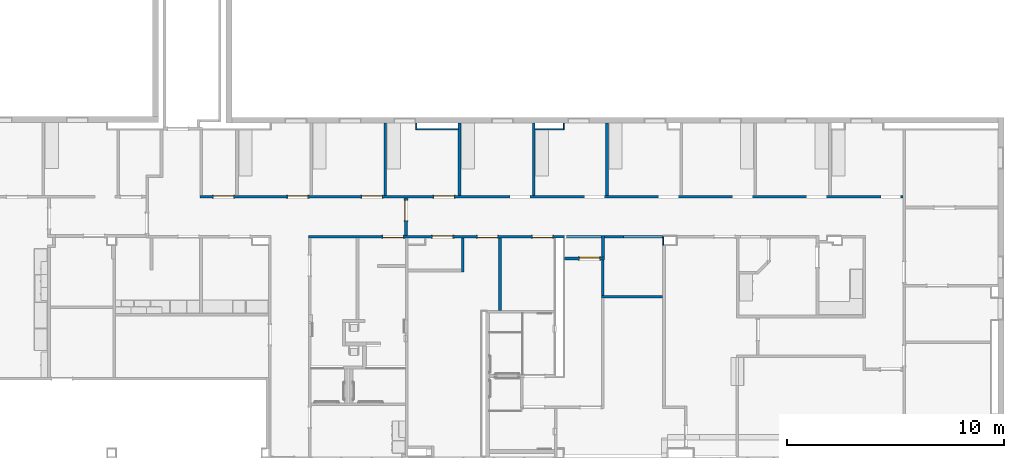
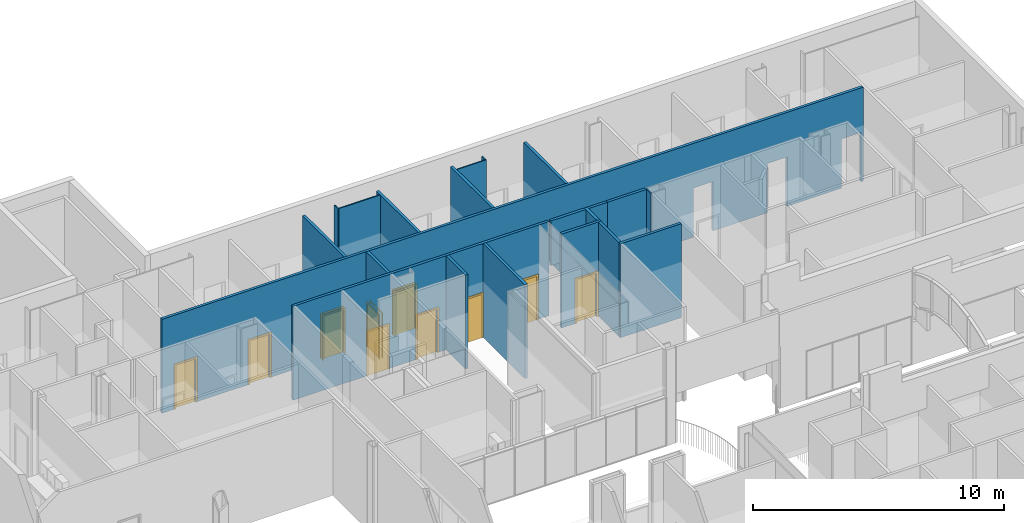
# One storey, part 22 of 47: 21 walls, 10 doors, 16 openings.
"""IFC2X3 building model written with IfcOpenShell, lengths in metres."""

import ifcopenshell
import ifcopenshell.guid

model = None  # the IFC model being written
_history = None  # IfcOwnerHistory: only IFC2X3 demands one
_inside = {}  # id of a spatial element -> (the spatial element, [elements in it])
_under = {}  # id of a project, library or spatial element -> (it, [spatial elements below it])
_declared = {}  # id of a project -> (the project, [libraries it declares])
_typed = {}  # id of a type object -> (the type object, [elements of that type])
_made_of = {}  # id of a material, layer set ... -> (it, [elements and type objects made of it])


def new_model(schema):
    """Start an empty IFC model of exactly this schema.

    Asked for "IFC4X3", IfcOpenShell would pick the latest addendum, in which some entities
    have other attributes; the version numbers below select the first issue.
    IFC2X3 requires an IfcOwnerHistory on every rooted entity: one is made here for all.
    """
    global model, _history
    if schema == "IFC4X3":
        model = ifcopenshell.file(schema_version=(4, 3, 0, 0))
    else:
        model = ifcopenshell.file(schema=schema)
    _inside.clear()
    _under.clear()
    _declared.clear()
    _typed.clear()
    _made_of.clear()
    _history = None
    if model.schema == "IFC2X3":
        org = make("IfcOrganization", Name="unknown")
        user = make(
            "IfcPersonAndOrganization",
            ThePerson=make("IfcPerson", FamilyName="unknown"),
            TheOrganization=org,
        )
        app = make(
            "IfcApplication",
            ApplicationDeveloper=org,
            Version="unknown",
            ApplicationFullName="unknown",
            ApplicationIdentifier="unknown",
        )
        _history = make(
            "IfcOwnerHistory",
            OwningUser=user,
            OwningApplication=app,
            ChangeAction="ADDED",
            CreationDate=0,
        )
    return model


def make(cls, **values):
    """One entity of the class cls with the attributes given. An attribute that is None is left unset."""
    return model.create_entity(
        cls, **{name: value for name, value in values.items() if value is not None}
    )


def entity(cls, *values):
    """Any entity or typed value of the class cls, its attributes in the order of the schema. None: left unset."""
    e = model.create_entity(cls)
    for i, value in enumerate(values):
        if value is not None:
            e[i] = value
    return e


def rooted(cls, **values):
    """An entity with a GlobalId (a new one), such as an element, a storey or a relation."""
    return make(cls, GlobalId=ifcopenshell.guid.new(), OwnerHistory=_history, **values)


def si_unit(unit_type, name, prefix=None):
    """IfcSIUnit, for example si_unit("LENGTHUNIT", "METRE", prefix="MILLI")."""
    return make("IfcSIUnit", UnitType=unit_type, Prefix=prefix, Name=name)


def converted_unit(unit_type, name, factor, base, dimensions=None, offset=None):
    """IfcConversionBasedUnit, such as the inch: factor (a typed value) times the base unit."""
    return make(
        "IfcConversionBasedUnit"
        if offset is None
        else "IfcConversionBasedUnitWithOffset",
        ConversionOffset=offset,
        Dimensions=None
        if dimensions is None
        else entity("IfcDimensionalExponents", *dimensions),
        UnitType=unit_type,
        Name=name,
        ConversionFactor=make(
            "IfcMeasureWithUnit", ValueComponent=factor, UnitComponent=base
        ),
    )


def assignment(units):
    """IfcUnitAssignment: the units of a project."""
    return None if units is None else make("IfcUnitAssignment", Units=units)


def point(xyz):
    """IfcCartesianPoint."""
    return None if xyz is None else make("IfcCartesianPoint", Coordinates=xyz)


def direction(xyz):
    """IfcDirection."""
    return None if xyz is None else make("IfcDirection", DirectionRatios=xyz)


def frame(location, z_axis=None, x_axis=None):
    """IfcAxis2Placement3D, a coordinate frame: its origin and axes. An axis left out is left unset."""
    return make(
        "IfcAxis2Placement3D",
        Location=point(location),
        Axis=direction(z_axis),
        RefDirection=direction(x_axis),
    )


def frame_2d(location, x_axis=None):
    """IfcAxis2Placement2D, a coordinate frame in the plane: its origin and x axis."""
    return make(
        "IfcAxis2Placement2D", Location=point(location), RefDirection=direction(x_axis)
    )


def origin():
    """The frame at (0, 0, 0) with its axes left unset."""
    return frame((0.0, 0.0, 0.0))


def origin_2d_with_axis():
    """The frame at (0, 0) in the plane with the x axis (1, 0) written out."""
    return frame_2d((0.0, 0.0), x_axis=(1.0, 0.0))


def place(relative_to, where):
    """IfcLocalPlacement: puts the frame where relative to a parent placement (None: the world)."""
    return make(
        "IfcLocalPlacement", PlacementRelTo=relative_to, RelativePlacement=where
    )


def context(
    kind, dimensions, precision=None, world=None, true_north=None, identifier=None
):
    """IfcGeometricRepresentationContext, for example the 3D "Model" context."""
    return make(
        "IfcGeometricRepresentationContext",
        ContextIdentifier=identifier,
        ContextType=kind,
        CoordinateSpaceDimension=dimensions,
        Precision=precision,
        WorldCoordinateSystem=world,
        TrueNorth=true_north,
    )


def project(units=None, contexts=None):
    """IfcProject with its units and contexts."""
    return rooted(
        "IfcProject",
        Name="project",
        RepresentationContexts=contexts,
        UnitsInContext=assignment(units),
    )


def spatial(cls, under=None, at=None, **own):
    """A site, building, storey or space (cls), placed at a placement, below another one or the project."""
    s = rooted(cls, ObjectPlacement=at, **own)
    if under is not None:
        _under.setdefault(under.id(), (under, []))[1].append(s)
    return s


def polyline(points):
    """IfcPolyline through the points."""
    return make("IfcPolyline", Points=[point(p) for p in points])


def profile(cls, at=None, kind="AREA", **sizes):
    """A parametric profile (cls). Its sizes go by their IFC names, for example OverallWidth=200.0."""
    return make(cls, ProfileType=kind, Position=at, **sizes)


def rectangle(**sizes):
    """IfcRectangleProfileDef."""
    return profile("IfcRectangleProfileDef", **sizes)


def outline(outer, holes=None, kind="AREA"):
    """IfcArbitraryClosedProfileDef: a profile drawn as a closed curve; with holes, ...WithVoids."""
    if holes is None:
        return make("IfcArbitraryClosedProfileDef", ProfileType=kind, OuterCurve=outer)
    return make(
        "IfcArbitraryProfileDefWithVoids",
        ProfileType=kind,
        OuterCurve=outer,
        InnerCurves=holes,
    )


def extrude(swept, where, along, depth):
    """IfcExtrudedAreaSolid: the profile swept, set in the frame where, extruded along a direction by depth."""
    return make(
        "IfcExtrudedAreaSolid",
        SweptArea=swept,
        Position=where,
        ExtrudedDirection=direction(along),
        Depth=depth,
    )


def shape(context_of_items, identifier, shape_type, items):
    """IfcShapeRepresentation: the items that make up one representation, for example the "Body"."""
    return make(
        "IfcShapeRepresentation",
        ContextOfItems=context_of_items,
        RepresentationIdentifier=identifier,
        RepresentationType=shape_type,
        Items=items,
    )


def source(mapping_origin, context_of_items, identifier, shape_type, items):
    """IfcRepresentationMap: a shape defined once, which mapped items show again and again."""
    return make(
        "IfcRepresentationMap",
        MappingOrigin=mapping_origin,
        MappedRepresentation=shape(context_of_items, identifier, shape_type, items),
    )


def transform(
    local_origin,
    x_axis=None,
    y_axis=None,
    z_axis=None,
    scale=None,
    scale2=None,
    scale3=None,
    uniform=True,
):
    """IfcCartesianTransformationOperator3D, or its non-uniform kind. x_axis, y_axis, z_axis: its Axis1, 2, 3."""
    if uniform:
        return make(
            "IfcCartesianTransformationOperator3D",
            Axis1=direction(x_axis),
            Axis2=direction(y_axis),
            LocalOrigin=point(local_origin),
            Scale=scale,
            Axis3=direction(z_axis),
        )
    return make(
        "IfcCartesianTransformationOperator3DnonUniform",
        Axis1=direction(x_axis),
        Axis2=direction(y_axis),
        LocalOrigin=point(local_origin),
        Scale=scale,
        Axis3=direction(z_axis),
        Scale2=scale2,
        Scale3=scale3,
    )


def mapped(mapping_source, mapping_target):
    """IfcMappedItem: shows the shape of a source again, moved by a transform."""
    return make(
        "IfcMappedItem", MappingSource=mapping_source, MappingTarget=mapping_target
    )


def material(Name=None, Category=None):
    """IfcMaterial."""
    return make("IfcMaterial", Name=Name, Category=Category)


def layer(
    of_material, thickness, ventilated=None, Name=None, Category=None, Priority=None
):
    """IfcMaterialLayer: one layer of a wall or slab, of a material (None: an air gap)."""
    return make(
        "IfcMaterialLayer",
        Material=of_material,
        LayerThickness=thickness,
        IsVentilated=ventilated,
        Name=Name,
        Category=Category,
        Priority=Priority,
    )


def layer_set(layers, Name=None):
    """IfcMaterialLayerSet."""
    return make("IfcMaterialLayerSet", MaterialLayers=layers, LayerSetName=Name)


def layer_usage(for_layer_set, set_direction, sense, offset, extent=None):
    """IfcMaterialLayerSetUsage: how a layer set lies in its element."""
    return make(
        "IfcMaterialLayerSetUsage",
        ForLayerSet=for_layer_set,
        LayerSetDirection=set_direction,
        DirectionSense=sense,
        OffsetFromReferenceLine=offset,
        ReferenceExtent=extent,
    )


def made_of(thing, what):
    """Note that an element or type object is made of a material, layer set ...; save() writes the relation."""
    if what is not None:
        _made_of.setdefault(what.id(), (what, []))[1].append(thing)
    return thing


def type_object(cls, material=None, **own):
    """A type object (cls), such as IfcWallType, which elements share."""
    return made_of(rooted(cls, **own), material)


def type_shapes(of_type, sources):
    """Give a type object the sources (RepresentationMaps) that its elements show as mapped items."""
    of_type.RepresentationMaps = sources


def element(
    cls,
    number,
    at=None,
    inside=None,
    cuts=None,
    type_object=None,
    material=None,
    context=None,
    identifier="Body",
    shape_type=None,
    held_by="IfcProductDefinitionShape",
    body=None,
    shapes=None,
    **own,
):
    """One element of the class cls, such as IfcWall. Its Tag is "e" and its number.

    at: its placement. inside: the storey or other place that contains it. cuts: it is an
    opening in that element (IfcRelVoidsElement). A single representation is given by context,
    identifier, shape_type and body (its items); several are given by shapes. held_by: the class
    of the entity that holds the representations. save() writes the other relations.
    """
    e = rooted(cls, Tag="e%d" % number, ObjectPlacement=at, **own)
    if body is not None:
        shapes = [shape(context, identifier, shape_type, body)]
    if shapes is not None:
        e.Representation = make(held_by, Representations=shapes)
    if inside is not None:
        _inside.setdefault(inside.id(), (inside, []))[1].append(e)
    if cuts is not None:
        rooted(
            "IfcRelVoidsElement", RelatingBuildingElement=cuts, RelatedOpeningElement=e
        )
    if type_object is not None:
        _typed.setdefault(type_object.id(), (type_object, []))[1].append(e)
    return made_of(e, material)


def fill(opening, filler):
    """IfcRelFillsElement: the door or window that sits in an opening."""
    return rooted(
        "IfcRelFillsElement",
        RelatingOpeningElement=opening,
        RelatedBuildingElement=filler,
    )


def aggregate(whole, parts):
    """IfcRelAggregates: a whole, such as a stair, and the parts it consists of."""
    return rooted("IfcRelAggregates", RelatingObject=whole, RelatedObjects=parts)


def save(model, path):
    """Write the relations noted so far, then the file.

    IfcRelAggregates (storeys below a building ...), IfcRelContainedInSpatialStructure (elements
    in a storey), IfcRelDefinesByType, IfcRelAssociatesMaterial and IfcRelDeclares: one each for
    every whole, place, type object, material and project.
    """
    for whole, parts in _under.values():
        aggregate(whole, parts)
    for where, things in _inside.values():
        rooted(
            "IfcRelContainedInSpatialStructure",
            RelatedElements=things,
            RelatingStructure=where,
        )
    for kind, things in _typed.values():
        rooted("IfcRelDefinesByType", RelatedObjects=things, RelatingType=kind)
    for what, things in _made_of.values():
        rooted("IfcRelAssociatesMaterial", RelatedObjects=things, RelatingMaterial=what)
    for by, libraries in _declared.values():
        rooted("IfcRelDeclares", RelatingContext=by, RelatedDefinitions=libraries)
    model.write(path)


model = new_model("IFC2X3")

# Units and contexts
model_context = context("Model", 3, precision=1e-09, world=origin())
plan_context = context("Plan", 3, precision=1e-09, world=origin())
ifc_project = project(units=[si_unit("LENGTHUNIT", "METRE"), si_unit("AREAUNIT", "SQUARE_METRE"), si_unit("VOLUMEUNIT", "CUBIC_METRE"), converted_unit("PLANEANGLEUNIT", "DEGREE", entity("IfcRatioMeasure", 0.01745329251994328), si_unit("PLANEANGLEUNIT", "RADIAN"), dimensions=[0, 0, 0, 0, 0, 0, 0]), si_unit("TIMEUNIT", "SECOND")], contexts=[model_context, plan_context])

# Site, building, storey
site_placement = place(None, origin())
site = spatial("IfcSite", under=ifc_project, at=site_placement, Name="Default", CompositionType="ELEMENT")
building_placement = place(site_placement, origin())
building = spatial("IfcBuilding", under=site, at=building_placement, CompositionType="ELEMENT")
storey_placement = place(building_placement, frame((0.0, 0.0, 4.570000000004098)))
storey = spatial("IfcBuildingStorey", under=building, at=storey_placement, Name="Second Floor", CompositionType="ELEMENT", Elevation=4.570000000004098)

# Walls
ifc_material_1 = material(Name="Plasterboard")
ifc_layer_1 = layer(ifc_material_1, 0.016)
ifc_material_2 = material(Name="Metal - Stud Layer")
ifc_layer_2 = layer(ifc_material_2, 0.092)
ifc_layer_3 = layer(ifc_material_1, 0.016)
ifc_layer_set_1 = layer_set([ifc_layer_1, ifc_layer_2, ifc_layer_3], Name="Basic Wall:Interior - Partition (92mm Stud)")
ifc_layer_usage_1 = layer_usage(ifc_layer_set_1, "AXIS2", "NEGATIVE", 0.062)
wall_1_placement = place(storey_placement, frame((-28.06800000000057, 46.87843871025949, 0.0), z_axis=(0.0, 0.0, 1.0), x_axis=(0.0, 1.0, 0.0)))
element("IfcWallStandardCase", 1, at=wall_1_placement, inside=storey, material=ifc_layer_usage_1, Name="Basic Wall:Interior - Partition (92mm Stud)", ObjectType="Basic Wall:Interior - Partition (92mm Stud)", context=model_context, shape_type="SweptSolid", body=[
    extrude(rectangle(XDim=3.324561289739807, YDim=0.1239999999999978, at=frame_2d((1.662280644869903, 0.0), x_axis=(-1.0, 0.0))), origin(), (0.0, 0.0, 1.0), 4.577999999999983),
])
ifc_layer_usage_2 = layer_usage(ifc_layer_set_1, "AXIS2", "NEGATIVE", 0.062)
wall_2_placement = place(storey_placement, frame((-24.65800000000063, 46.87843871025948, 0.0), z_axis=(0.0, 0.0, 1.0), x_axis=(0.0, 1.0, 0.0)))
element("IfcWallStandardCase", 2, at=wall_2_placement, inside=storey, material=ifc_layer_usage_2, Name="Basic Wall:Interior - Partition (92mm Stud)", ObjectType="Basic Wall:Interior - Partition (92mm Stud)", context=model_context, shape_type="SweptSolid", body=[
    extrude(rectangle(XDim=3.324561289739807, YDim=0.1239999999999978, at=frame_2d((1.662280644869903, 0.0), x_axis=(-1.0, 0.0))), origin(), (0.0, 0.0, 1.0), 4.577999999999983),
])
ifc_layer_usage_3 = layer_usage(ifc_layer_set_1, "AXIS2", "NEGATIVE", 0.062)
wall_3_placement = place(storey_placement, frame((-21.24800000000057, 46.87843871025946, 0.0), z_axis=(0.0, 0.0, 1.0), x_axis=(0.0, 1.0, 0.0)))
element("IfcWallStandardCase", 3, at=wall_3_placement, inside=storey, material=ifc_layer_usage_3, Name="Basic Wall:Interior - Partition (92mm Stud)", ObjectType="Basic Wall:Interior - Partition (92mm Stud)", context=model_context, shape_type="SweptSolid", body=[
    extrude(rectangle(XDim=3.324561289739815, YDim=0.1239999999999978, at=frame_2d((1.662280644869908, 0.0), x_axis=(-1.0, 0.0))), origin(), (0.0, 0.0, 1.0), 4.577999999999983),
])
ifc_layer_usage_4 = layer_usage(ifc_layer_set_1, "AXIS2", "NEGATIVE", 0.062)
wall_4_placement = place(storey_placement, frame((-17.87200000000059, 50.20299999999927, 0.0), z_axis=(0.0, 0.0, 1.0), x_axis=(0.0, -1.0, 0.0)))
element("IfcWallStandardCase", 4, at=wall_4_placement, inside=storey, material=ifc_layer_usage_4, Name="Basic Wall:Interior - Partition (92mm Stud)", ObjectType="Basic Wall:Interior - Partition (92mm Stud)", context=model_context, shape_type="SweptSolid", body=[
    extrude(rectangle(XDim=3.324561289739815, YDim=0.1240000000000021, at=frame_2d((1.662280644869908, 0.0), x_axis=(-1.0, 0.0))), origin(), (0.0, 0.0, 1.0), 4.577999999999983),
])

# Wall, opening, door
ifc_layer_usage_5 = layer_usage(ifc_layer_set_1, "AXIS2", "NEGATIVE", 0.062)
wall_5_placement = place(storey_placement, frame((-19.83000000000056, 43.97743871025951, 0.0)))
wall_5 = element("IfcWallStandardCase", 5, at=wall_5_placement, inside=storey, material=ifc_layer_usage_5, Name="Basic Wall:Interior - Partition (92mm Stud)", ObjectType="Basic Wall:Interior - Partition (92mm Stud)", context=model_context, shape_type="SweptSolid", body=[
    extrude(rectangle(XDim=1.833999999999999, YDim=0.1240000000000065, at=frame_2d((0.9169999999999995, 0.0), x_axis=(-1.0, 0.0))), origin(), (0.0, 0.0, 1.0), 4.577999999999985),
])
opening_1_placement = place(wall_5_placement, frame((0.6949999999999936, -0.06200000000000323, 0.0)))
opening_1 = element("IfcOpeningElement", 6, at=opening_1_placement, cuts=wall_5, Name="M_Single-Flush:0915 x 2134mm:0915 x 2134mm:1", ObjectType="Opening", context=model_context, shape_type="SweptSolid", body=[
    extrude(rectangle(XDim=0.9149999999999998, YDim=2.134, at=frame_2d((1.067, 0.4575), x_axis=(0.0, 1.0))), frame((0.0, 0.0, 0.0), z_axis=(0.0, 1.0, 0.0), x_axis=(0.0, 0.0, 1.0)), (0.0, 0.0, 1.0), 0.124),
])
door_style_1 = type_object("IfcDoorStyle", Name="0915 x 2134mm", ConstructionType="NOTDEFINED", OperationType="SINGLE_SWING_RIGHT", ParameterTakesPrecedence=False, Sizeable=False)
shared_shape_1 = source(origin(), model_context, "Body", "SweptSolid", [
    extrude(outline(polyline([(-0.5335, -1.123999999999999), (0.5334999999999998, -1.123999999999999), (0.5334999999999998, 1.086), (0.4574999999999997, 1.086), (0.4574999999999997, -1.048000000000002), (-0.4574999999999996, -1.048000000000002), (-0.4574999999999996, 1.086), (-0.5335, 1.086), (-0.5335, -1.123999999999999)])), frame((0.4575000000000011, 0.1239999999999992, 1.086), z_axis=(0.0, 1.0, 0.0), x_axis=(1.0, 0.0, 0.0)), (0.0, 0.0, 1.0), 0.02499999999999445),
    extrude(outline(polyline([(-1.123999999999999, -0.5334999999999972), (1.085999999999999, -0.5334999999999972), (1.085999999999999, -0.4575000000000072), (-1.048, -0.4575000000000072), (-1.048, 0.4575000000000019), (1.085999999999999, 0.4575000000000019), (1.085999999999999, 0.5335000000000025), (-1.123999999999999, 0.5335000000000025), (-1.123999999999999, -0.5334999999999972)])), frame((0.4575000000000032, -0.02500000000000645, 1.085999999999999), z_axis=(0.0, 1.0, 0.0), x_axis=(0.0, 0.0, -1.0)), (0.0, 0.0, 1.0), 0.02500000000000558),
    extrude(rectangle(XDim=0.051, YDim=0.9149999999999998, at=origin_2d_with_axis()), frame((0.4575000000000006, 0.09849999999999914, 0.0), z_axis=(0.0, 0.0, 1.0), x_axis=(0.0, 1.0, 0.0)), (0.0, 0.0, 1.0), 2.133999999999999),
])
type_shapes(door_style_1, [shared_shape_1])
door_1_placement = place(opening_1_placement, origin())
door_1 = element("IfcDoor", 7, at=door_1_placement, inside=storey, type_object=door_style_1, Name="M_Single-Flush:0915 x 2134mm:0915 x 2134mm", ObjectType="0915 x 2134mm", OverallHeight=2.134, OverallWidth=0.9149999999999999, context=model_context, shape_type="MappedRepresentation", body=[
    mapped(shared_shape_1, transform((0.0, 0.0, 0.0), scale=1.0)),
])
fill(opening_1, door_1)

# Walls
ifc_layer_usage_6 = layer_usage(ifc_layer_set_1, "AXIS2", "NEGATIVE", 0.062)
wall_6_placement = place(storey_placement, frame((-18.05800000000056, 44.03943871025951, 0.0), z_axis=(0.0, 0.0, 1.0), x_axis=(0.0, 1.0, 0.0)))
element("IfcWallStandardCase", 8, at=wall_6_placement, inside=storey, material=ifc_layer_usage_6, Name="Basic Wall:Interior - Partition (92mm Stud)", ObjectType="Basic Wall:Interior - Partition (92mm Stud)", context=model_context, shape_type="SweptSolid", body=[
    extrude(rectangle(XDim=1.004999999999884, YDim=0.1240000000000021, at=frame_2d((0.5024999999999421, 0.0), x_axis=(-1.0, 0.0))), origin(), (0.0, 0.0, 1.0), 4.577999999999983),
])
ifc_layer_usage_7 = layer_usage(ifc_layer_set_1, "AXIS2", "NEGATIVE", 0.062)
wall_7_placement = place(storey_placement, frame((-17.99600000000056, 44.9824387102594, 0.0)))
element("IfcWallStandardCase", 9, at=wall_7_placement, inside=storey, material=ifc_layer_usage_7, Name="Basic Wall:Interior - Partition (92mm Stud)", ObjectType="Basic Wall:Interior - Partition (92mm Stud)", context=model_context, shape_type="SweptSolid", body=[
    extrude(rectangle(XDim=0.8709999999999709, YDim=0.1240000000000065, at=frame_2d((0.4354999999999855, 0.0), x_axis=(-1.0, 0.0))), origin(), (0.0, 0.0, 1.0), 4.577999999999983),
])
ifc_layer_usage_8 = layer_usage(ifc_layer_set_1, "AXIS2", "NEGATIVE", 0.062)
wall_8_placement = place(storey_placement, frame((-15.32000000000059, 42.21800069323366, 0.0), z_axis=(0.0, 0.0, 1.0), x_axis=(-1.0, 0.0, 0.0)))
element("IfcWallStandardCase", 10, at=wall_8_placement, inside=storey, material=ifc_layer_usage_8, Name="Basic Wall:Interior - Partition (92mm Stud)", ObjectType="Basic Wall:Interior - Partition (92mm Stud)", context=model_context, shape_type="SweptSolid", body=[
    extrude(rectangle(XDim=2.808999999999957, YDim=0.1240000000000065, at=frame_2d((1.404499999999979, 0.0), x_axis=(-1.0, 0.0))), origin(), (0.0, 0.0, 1.0), 4.577999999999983),
])
ifc_layer_usage_9 = layer_usage(ifc_layer_set_1, "AXIS2", "NEGATIVE", 0.062)
wall_9_placement = place(storey_placement, frame((-18.06700000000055, 42.28000069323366, 0.0), z_axis=(0.0, 0.0, 1.0), x_axis=(0.0, 1.0, 0.0)))
element("IfcWallStandardCase", 11, at=wall_9_placement, inside=storey, material=ifc_layer_usage_9, Name="Basic Wall:Interior - Partition (92mm Stud)", ObjectType="Basic Wall:Interior - Partition (92mm Stud)", context=model_context, shape_type="SweptSolid", body=[
    extrude(rectangle(XDim=1.635438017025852, YDim=0.1240000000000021, at=frame_2d((0.8177190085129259, 0.0), x_axis=(-1.0, 0.0))), origin(), (0.0, 0.0, 1.0), 4.577999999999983),
])

# Wall, openings, doors
ifc_layer_usage_10 = layer_usage(ifc_layer_set_1, "AXIS2", "NEGATIVE", 0.062)
wall_10_placement = place(storey_placement, frame((-31.61000000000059, 44.98243871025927, 0.0)))
wall_10 = element("IfcWallStandardCase", 12, at=wall_10_placement, inside=storey, material=ifc_layer_usage_10, Name="Basic Wall:Interior - Partition (92mm Stud)", ObjectType="Basic Wall:Interior - Partition (92mm Stud)", context=model_context, shape_type="SweptSolid", body=[
    extrude(rectangle(XDim=11.78000000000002, YDim=0.1240000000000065, at=frame_2d((5.890000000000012, 0.0), x_axis=(-1.0, 0.0))), origin(), (0.0, 0.0, 1.0), 4.577999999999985),
])
opening_2_placement = place(wall_10_placement, frame((5.721000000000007, -0.06200000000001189, 0.0)))
opening_2 = element("IfcOpeningElement", 13, at=opening_2_placement, cuts=wall_10, Name="M_Single-Flush:0915 x 2134mm:0915 x 2134mm:1", ObjectType="Opening", context=model_context, shape_type="SweptSolid", body=[
    extrude(rectangle(XDim=0.9149999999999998, YDim=2.134, at=frame_2d((1.067, 0.4575), x_axis=(0.0, 1.0))), frame((0.0, 0.0, 0.0), z_axis=(0.0, 1.0, 0.0), x_axis=(0.0, 0.0, 1.0)), (0.0, 0.0, 1.0), 0.124),
])
opening_3_placement = place(wall_10_placement, frame((4.360000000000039, 0.06200000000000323, 0.0)))
opening_3 = element("IfcOpeningElement", 14, at=opening_3_placement, cuts=wall_10, Name="M_Single-Flush:0915 x 2134mm:0915 x 2134mm:1", ObjectType="Opening", context=model_context, shape_type="SweptSolid", body=[
    extrude(rectangle(XDim=0.9149999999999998, YDim=2.134, at=frame_2d((1.067, 0.4574999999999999), x_axis=(0.0, -1.0))), frame((0.0, 0.0, 0.0), z_axis=(0.0, -1.0, 0.0), x_axis=(0.0, 0.0, 1.0)), (0.0, 0.0, 1.0), 0.124),
])
opening_4_placement = place(wall_10_placement, frame((8.69600000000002, 0.06199999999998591, 0.0)))
opening_4 = element("IfcOpeningElement", 15, at=opening_4_placement, cuts=wall_10, Name="M_Single-Flush:0915 x 2134mm:0915 x 2134mm:1", ObjectType="Opening", context=model_context, shape_type="SweptSolid", body=[
    extrude(rectangle(XDim=0.9149999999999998, YDim=2.134, at=frame_2d((1.067, 0.4574999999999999), x_axis=(0.0, -1.0))), frame((0.0, 0.0, 0.0), z_axis=(0.0, -1.0, 0.0), x_axis=(0.0, 0.0, 1.0)), (0.0, 0.0, 1.0), 0.124),
])
opening_5_placement = place(wall_10_placement, frame((11.22000000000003, 0.06199999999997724, 0.0)))
opening_5 = element("IfcOpeningElement", 16, at=opening_5_placement, cuts=wall_10, Name="M_Single-Flush:0915 x 2134mm:0915 x 2134mm:1", ObjectType="Opening", context=model_context, shape_type="SweptSolid", body=[
    extrude(rectangle(XDim=0.9149999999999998, YDim=2.134, at=frame_2d((1.067, 0.4574999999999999), x_axis=(0.0, -1.0))), frame((0.0, 0.0, 0.0), z_axis=(0.0, -1.0, 0.0), x_axis=(0.0, 0.0, 1.0)), (0.0, 0.0, 1.0), 0.124),
])
door_2_placement = place(opening_2_placement, origin())
door_2 = element("IfcDoor", 17, at=door_2_placement, inside=storey, type_object=door_style_1, Name="M_Single-Flush:0915 x 2134mm:0915 x 2134mm", ObjectType="0915 x 2134mm", OverallHeight=2.134, OverallWidth=0.9149999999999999, context=model_context, shape_type="MappedRepresentation", body=[
    mapped(shared_shape_1, transform((0.0, 0.0, 0.0), scale=1.0)),
])
fill(opening_2, door_2)
door_style_2 = type_object("IfcDoorStyle", Name="0915 x 2134mm", ConstructionType="NOTDEFINED", OperationType="SINGLE_SWING_LEFT", ParameterTakesPrecedence=False, Sizeable=False)
shared_shape_2 = source(origin(), model_context, "Body", "SweptSolid", [
    extrude(outline(polyline([(-0.5335, -1.123999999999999), (0.5334999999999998, -1.123999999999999), (0.5334999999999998, 1.086), (0.4574999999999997, 1.086), (0.4574999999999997, -1.048000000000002), (-0.4574999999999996, -1.048000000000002), (-0.4574999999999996, 1.086), (-0.5335, 1.086), (-0.5335, -1.123999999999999)])), frame((0.4575000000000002, 0.1489999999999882, 1.086), z_axis=(0.0, -1.0, 0.0), x_axis=(-1.0, 0.0, 0.0)), (0.0, 0.0, 1.0), 0.02499999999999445),
    extrude(outline(polyline([(-1.123999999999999, -0.5334999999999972), (1.085999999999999, -0.5334999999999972), (1.085999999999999, -0.4575000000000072), (-1.048, -0.4575000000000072), (-1.048, 0.4575000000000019), (1.085999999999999, 0.4575000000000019), (1.085999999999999, 0.5335000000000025), (-1.123999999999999, 0.5335000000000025), (-1.123999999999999, -0.5334999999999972)])), frame((0.4574999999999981, 0.0, 1.085999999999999), z_axis=(0.0, -1.0, 0.0), x_axis=(0.0, 0.0, -1.0)), (0.0, 0.0, 1.0), 0.02500000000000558),
    extrude(rectangle(XDim=0.9149999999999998, YDim=0.051, at=origin_2d_with_axis()), frame((0.4575000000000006, 0.09849999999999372, 0.0)), (0.0, 0.0, 1.0), 2.133999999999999),
])
type_shapes(door_style_2, [shared_shape_2])
door_3_placement = place(opening_3_placement, frame((0.0, 0.0, 0.0), z_axis=(0.0, 0.0, 1.0), x_axis=(-1.0, 0.0, 0.0)))
door_3 = element("IfcDoor", 18, at=door_3_placement, inside=storey, type_object=door_style_2, Name="M_Single-Flush:0915 x 2134mm:0915 x 2134mm", ObjectType="0915 x 2134mm", OverallHeight=2.134, OverallWidth=0.9149999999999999, context=model_context, shape_type="MappedRepresentation", body=[
    mapped(shared_shape_2, transform((0.0, 0.0, 0.0), scale=1.0)),
])
fill(opening_3, door_3)
door_4_placement = place(opening_4_placement, frame((0.0, 0.0, 0.0), z_axis=(0.0, 0.0, 1.0), x_axis=(-1.0, 0.0, 0.0)))
door_4 = element("IfcDoor", 19, at=door_4_placement, inside=storey, type_object=door_style_2, Name="M_Single-Flush:0915 x 2134mm:0915 x 2134mm", ObjectType="0915 x 2134mm", OverallHeight=2.134, OverallWidth=0.9149999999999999, context=model_context, shape_type="MappedRepresentation", body=[
    mapped(shared_shape_2, transform((0.0, 0.0, 0.0), scale=1.0)),
])
fill(opening_4, door_4)
door_5_placement = place(opening_5_placement, frame((0.0, 0.0, 0.0), z_axis=(0.0, 0.0, 1.0), x_axis=(-1.0, 0.0, 0.0)))
door_5 = element("IfcDoor", 20, at=door_5_placement, inside=storey, type_object=door_style_2, Name="M_Single-Flush:0915 x 2134mm:0915 x 2134mm", ObjectType="0915 x 2134mm", OverallHeight=2.134, OverallWidth=0.9149999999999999, context=model_context, shape_type="MappedRepresentation", body=[
    mapped(shared_shape_2, transform((0.0, 0.0, 0.0), scale=1.0)),
])
fill(opening_5, door_5)

# Walls
ifc_layer_usage_11 = layer_usage(ifc_layer_set_1, "AXIS2", "NEGATIVE", 0.062)
wall_11_placement = place(storey_placement, frame((-24.51200000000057, 44.92043871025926, 0.0), z_axis=(0.0, 0.0, 1.0), x_axis=(0.0, -1.0, 0.0)))
element("IfcWallStandardCase", 21, at=wall_11_placement, inside=storey, material=ifc_layer_usage_11, Name="Basic Wall:Interior - Partition (92mm Stud)", ObjectType="Basic Wall:Interior - Partition (92mm Stud)", context=model_context, shape_type="SweptSolid", body=[
    extrude(rectangle(XDim=1.555999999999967, YDim=0.1239999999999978, at=frame_2d((0.7779999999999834, 0.0), x_axis=(-1.0, 0.0))), origin(), (0.0, 0.0, 1.0), 4.577999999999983),
])
ifc_layer_usage_12 = layer_usage(ifc_layer_set_1, "AXIS2", "NEGATIVE", 0.062)
wall_12_placement = place(storey_placement, frame((-22.79200000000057, 44.92043871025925, 0.0), z_axis=(0.0, 0.0, 1.0), x_axis=(0.0, -1.0, 0.0)))
element("IfcWallStandardCase", 22, at=wall_12_placement, inside=storey, material=ifc_layer_usage_12, Name="Basic Wall:Interior - Partition (92mm Stud)", ObjectType="Basic Wall:Interior - Partition (92mm Stud)", context=model_context, shape_type="SweptSolid", body=[
    extrude(rectangle(XDim=3.325999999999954, YDim=0.1239999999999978, at=frame_2d((1.662999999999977, 0.0), x_axis=(-1.0, 0.0))), origin(), (0.0, 0.0, 1.0), 4.577999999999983),
])

# Wall, opening, door
ifc_layer_usage_13 = layer_usage(ifc_layer_set_1, "AXIS2", "NEGATIVE", 0.062)
wall_13_placement = place(storey_placement, frame((-27.12200000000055, 46.75443871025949, 0.0), z_axis=(0.0, 0.0, 1.0), x_axis=(0.0, -1.0, 0.0)))
wall_13 = element("IfcWallStandardCase", 23, at=wall_13_placement, inside=storey, material=ifc_layer_usage_13, Name="Basic Wall:Interior - Partition (92mm Stud)", ObjectType="Basic Wall:Interior - Partition (92mm Stud)", context=model_context, shape_type="SweptSolid", body=[
    extrude(rectangle(XDim=1.710000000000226, YDim=0.1239999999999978, at=frame_2d((0.8550000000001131, 0.0), x_axis=(-1.0, 0.0))), origin(), (0.0, 0.0, 1.0), 4.577999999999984),
])
opening_6_placement = place(wall_13_placement, frame((1.014999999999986, 0.0619999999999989, 0.0)))
opening_6 = element("IfcOpeningElement", 24, at=opening_6_placement, cuts=wall_13, Name="M_Single-Flush:0915 x 2134mm:0915 x 2134mm:1", ObjectType="Opening", context=model_context, shape_type="SweptSolid", body=[
    extrude(rectangle(XDim=0.9149999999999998, YDim=2.134, at=frame_2d((1.067, 0.4575), x_axis=(0.0, 1.0))), frame((0.0, 0.0, 0.0), z_axis=(0.0, -1.0, 0.0), x_axis=(0.0, 0.0, 1.0)), (0.0, 0.0, 1.0), 0.124),
])
door_6_placement = place(opening_6_placement, frame((0.0, 0.0, 0.0), z_axis=(0.0, 0.0, 1.0), x_axis=(-1.0, 0.0, 0.0)))
door_6 = element("IfcDoor", 25, at=door_6_placement, inside=storey, type_object=door_style_1, Name="M_Single-Flush:0915 x 2134mm:0915 x 2134mm", ObjectType="0915 x 2134mm", OverallHeight=2.134, OverallWidth=0.9149999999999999, context=model_context, shape_type="MappedRepresentation", body=[
    mapped(shared_shape_1, transform((0.0, 0.0, 0.0), scale=1.0)),
])
fill(opening_6, door_6)

# Wall, openings, doors
ifc_layer_usage_14 = layer_usage(ifc_layer_set_1, "AXIS2", "NEGATIVE", 0.062)
wall_14_placement = place(storey_placement, frame((-4.270000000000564, 46.81643871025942, 0.0), z_axis=(0.0, 0.0, 1.0), x_axis=(-1.0, 0.0, 0.0)))
wall_14 = element("IfcWallStandardCase", 26, at=wall_14_placement, inside=storey, material=ifc_layer_usage_14, Name="Basic Wall:Interior - Partition (92mm Stud)", ObjectType="Basic Wall:Interior - Partition (92mm Stud)", context=model_context, shape_type="SweptSolid", body=[
    extrude(rectangle(XDim=32.32000000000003, YDim=0.1240000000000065, at=frame_2d((16.16000000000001, 0.0), x_axis=(-1.0, 0.0))), origin(), (0.0, 0.0, 1.0), 4.577999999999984),
])
opening_7_placement = place(wall_14_placement, frame((0.5662923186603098, 0.06200000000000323, 1.199999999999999)))
element("IfcOpeningElement", 27, at=opening_7_placement, cuts=wall_14, Name="Basic Wall:Interior - Partition (92mm Stud):2", ObjectType="Opening", context=model_context, shape_type="SweptSolid", body=[
    extrude(rectangle(XDim=2.4, YDim=0.9006153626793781, at=frame_2d((0.0, 0.0), x_axis=(0.0, 1.0))), frame((0.0, 0.0, 0.0), z_axis=(0.0, -1.0, 0.0), x_axis=(1.0, 0.0, 0.0)), (0.0, 0.0, 1.0), 0.124),
])
opening_8_placement = place(wall_14_placement, frame((3.968300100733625, 0.06200000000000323, 1.199999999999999)))
element("IfcOpeningElement", 28, at=opening_8_placement, cuts=wall_14, Name="Basic Wall:Interior - Partition (92mm Stud):3", ObjectType="Opening", context=model_context, shape_type="SweptSolid", body=[
    extrude(rectangle(XDim=2.4, YDim=0.9165997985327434, at=frame_2d((0.0, 0.0), x_axis=(0.0, 1.0))), frame((0.0, 0.0, 0.0), z_axis=(0.0, -1.0, 0.0), x_axis=(1.0, 0.0, 0.0)), (0.0, 0.0, 1.0), 0.124),
])
opening_9_placement = place(wall_14_placement, frame((7.37629231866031, 0.06200000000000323, 1.199999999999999)))
element("IfcOpeningElement", 29, at=opening_9_placement, cuts=wall_14, Name="Basic Wall:Interior - Partition (92mm Stud):4", ObjectType="Opening", context=model_context, shape_type="SweptSolid", body=[
    extrude(rectangle(XDim=2.4, YDim=0.9006153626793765, at=frame_2d((0.0, 0.0), x_axis=(0.0, 1.0))), frame((0.0, 0.0, 0.0), z_axis=(0.0, -1.0, 0.0), x_axis=(1.0, 0.0, 0.0)), (0.0, 0.0, 1.0), 0.124),
])
opening_10_placement = place(wall_14_placement, frame((10.7791, 0.06200000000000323, 1.199999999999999)))
element("IfcOpeningElement", 30, at=opening_10_placement, cuts=wall_14, Name="Basic Wall:Interior - Partition (92mm Stud):5", ObjectType="Opening", context=model_context, shape_type="SweptSolid", body=[
    extrude(rectangle(XDim=2.4, YDim=0.9149999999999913, at=frame_2d((0.0, 0.0), x_axis=(0.0, 1.0))), frame((0.0, 0.0, 0.0), z_axis=(0.0, -1.0, 0.0), x_axis=(1.0, 0.0, 0.0)), (0.0, 0.0, 1.0), 0.124),
])
opening_11_placement = place(wall_14_placement, frame((14.18909999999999, 0.06200000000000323, 1.199999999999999)))
element("IfcOpeningElement", 31, at=opening_11_placement, cuts=wall_14, Name="Basic Wall:Interior - Partition (92mm Stud):6", ObjectType="Opening", context=model_context, shape_type="SweptSolid", body=[
    extrude(rectangle(XDim=2.4, YDim=0.9149999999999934, at=frame_2d((0.0, 0.0), x_axis=(0.0, 1.0))), frame((0.0, 0.0, 0.0), z_axis=(0.0, -1.0, 0.0), x_axis=(1.0, 0.0, 0.0)), (0.0, 0.0, 1.0), 0.124),
])
opening_12_placement = place(wall_14_placement, frame((17.59909999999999, 0.06200000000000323, 1.199999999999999)))
element("IfcOpeningElement", 32, at=opening_12_placement, cuts=wall_14, Name="Basic Wall:Interior - Partition (92mm Stud):7", ObjectType="Opening", context=model_context, shape_type="SweptSolid", body=[
    extrude(rectangle(XDim=2.4, YDim=0.9149999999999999, at=frame_2d((0.0, 0.0), x_axis=(0.0, 1.0))), frame((0.0, 0.0, 0.0), z_axis=(0.0, -1.0, 0.0), x_axis=(1.0, 0.0, 0.0)), (0.0, 0.0, 1.0), 0.124),
])
opening_13_placement = place(wall_14_placement, frame((31.695, 0.06199999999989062, 0.0)))
opening_13 = element("IfcOpeningElement", 33, at=opening_13_placement, cuts=wall_14, Name=":1", ObjectType="Opening", context=model_context, shape_type="SweptSolid", body=[
    extrude(rectangle(XDim=0.9149999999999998, YDim=2.134, at=frame_2d((1.067, 0.4575), x_axis=(0.0, 1.0))), frame((0.0, 0.0, 0.0), z_axis=(0.0, -1.0, 0.0), x_axis=(0.0, 0.0, 1.0)), (0.0, 0.0, 1.0), 0.124),
])
opening_14_placement = place(wall_14_placement, frame((28.285, 0.06199999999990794, 0.0)))
opening_14 = element("IfcOpeningElement", 34, at=opening_14_placement, cuts=wall_14, Name=":1", ObjectType="Opening", context=model_context, shape_type="SweptSolid", body=[
    extrude(rectangle(XDim=0.9149999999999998, YDim=2.134, at=frame_2d((1.067, 0.4575), x_axis=(0.0, 1.0))), frame((0.0, 0.0, 0.0), z_axis=(0.0, -1.0, 0.0), x_axis=(0.0, 0.0, 1.0)), (0.0, 0.0, 1.0), 0.124),
])
opening_15_placement = place(wall_14_placement, frame((24.875, 0.0619999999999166, 0.0)))
opening_15 = element("IfcOpeningElement", 35, at=opening_15_placement, cuts=wall_14, Name=":1", ObjectType="Opening", context=model_context, shape_type="SweptSolid", body=[
    extrude(rectangle(XDim=0.9149999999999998, YDim=2.134, at=frame_2d((1.067, 0.4575), x_axis=(0.0, 1.0))), frame((0.0, 0.0, 0.0), z_axis=(0.0, -1.0, 0.0), x_axis=(0.0, 0.0, 1.0)), (0.0, 0.0, 1.0), 0.124),
])
opening_16_placement = place(wall_14_placement, frame((21.56500000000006, 0.06199999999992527, 0.0)))
opening_16 = element("IfcOpeningElement", 36, at=opening_16_placement, cuts=wall_14, Name=":1", ObjectType="Opening", context=model_context, shape_type="SweptSolid", body=[
    extrude(rectangle(XDim=0.9149999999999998, YDim=2.134, at=frame_2d((1.067, 0.4575), x_axis=(0.0, 1.0))), frame((0.0, 0.0, 0.0), z_axis=(0.0, -1.0, 0.0), x_axis=(0.0, 0.0, 1.0)), (0.0, 0.0, 1.0), 0.124),
])
door_7_placement = place(opening_13_placement, frame((0.0, 0.0, 0.0), z_axis=(0.0, 0.0, 1.0), x_axis=(-1.0, 0.0, 0.0)))
door_7 = element("IfcDoor", 37, at=door_7_placement, inside=storey, type_object=door_style_1, Name="M_Single-Flush:0915 x 2134mm:0915 x 2134mm", ObjectType="0915 x 2134mm", OverallHeight=2.134, OverallWidth=0.9149999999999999, context=model_context, shape_type="MappedRepresentation", body=[
    mapped(shared_shape_1, transform((0.0, 0.0, 0.0), scale=1.0)),
])
fill(opening_13, door_7)
door_8_placement = place(opening_14_placement, frame((0.0, 0.0, 0.0), z_axis=(0.0, 0.0, 1.0), x_axis=(-1.0, 0.0, 0.0)))
door_8 = element("IfcDoor", 38, at=door_8_placement, inside=storey, type_object=door_style_1, Name="M_Single-Flush:0915 x 2134mm:0915 x 2134mm", ObjectType="0915 x 2134mm", OverallHeight=2.134, OverallWidth=0.9149999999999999, context=model_context, shape_type="MappedRepresentation", body=[
    mapped(shared_shape_1, transform((0.0, 0.0, 0.0), scale=1.0)),
])
fill(opening_14, door_8)
door_9_placement = place(opening_15_placement, frame((0.0, 0.0, 0.0), z_axis=(0.0, 0.0, 1.0), x_axis=(-1.0, 0.0, 0.0)))
door_9 = element("IfcDoor", 39, at=door_9_placement, inside=storey, type_object=door_style_1, Name="M_Single-Flush:0915 x 2134mm:0915 x 2134mm", ObjectType="0915 x 2134mm", OverallHeight=2.134, OverallWidth=0.9149999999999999, context=model_context, shape_type="MappedRepresentation", body=[
    mapped(shared_shape_1, transform((0.0, 0.0, 0.0), scale=1.0)),
])
fill(opening_15, door_9)
door_10_placement = place(opening_16_placement, frame((0.0, 0.0, 0.0), z_axis=(0.0, 0.0, 1.0), x_axis=(-1.0, 0.0, 0.0)))
door_10 = element("IfcDoor", 40, at=door_10_placement, inside=storey, type_object=door_style_1, Name="M_Single-Flush:0915 x 2134mm:0915 x 2134mm", ObjectType="0915 x 2134mm", OverallHeight=2.134, OverallWidth=0.9149999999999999, context=model_context, shape_type="MappedRepresentation", body=[
    mapped(shared_shape_1, transform((0.0, 0.0, 0.0), scale=1.0)),
])
fill(opening_16, door_10)

# Walls
ifc_layer_usage_15 = layer_usage(ifc_layer_set_1, "AXIS2", "NEGATIVE", 0.062)
wall_15_placement = place(storey_placement, frame((-17.12500000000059, 44.9824387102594, 2.399999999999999)))
element("IfcWallStandardCase", 41, at=wall_15_placement, inside=storey, material=ifc_layer_usage_15, Name="Basic Wall:Interior - Partition (92mm Stud)", ObjectType="Basic Wall:Interior - Partition (92mm Stud)", context=model_context, shape_type="SweptSolid", body=[
    extrude(rectangle(XDim=1.804999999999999, YDim=0.1240000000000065, at=frame_2d((0.9024999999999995, 0.0), x_axis=(-1.0, 0.0))), origin(), (0.0, 0.0, 1.0), 2.177999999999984),
])
ifc_layer_usage_16 = layer_usage(ifc_layer_set_1, "AXIS2", "NEGATIVE", 0.062)
wall_16_placement = place(storey_placement, frame((-19.72840000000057, 44.98243871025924, 2.399999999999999)))
element("IfcWallStandardCase", 42, at=wall_16_placement, inside=storey, material=ifc_layer_usage_16, Name="Basic Wall:Interior - Partition (92mm Stud)", ObjectType="Basic Wall:Interior - Partition (92mm Stud)", context=model_context, shape_type="SweptSolid", body=[
    extrude(rectangle(XDim=1.608400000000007, YDim=0.1240000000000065, at=frame_2d((0.8042000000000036, 0.0), x_axis=(-1.0, 0.0))), origin(), (0.0, 0.0, 1.0), 2.177999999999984),
])
ifc_layer_4 = layer(ifc_material_2, 0.038)
ifc_layer_5 = layer(ifc_material_1, 0.016)
ifc_layer_set_2 = layer_set([ifc_layer_4, ifc_layer_5], Name="Basic Wall:Interior - Furring (38 mm Stud)")
ifc_layer_usage_17 = layer_usage(ifc_layer_set_2, "AXIS2", "POSITIVE", -0.027)
wall_17_placement = place(storey_placement, frame((-15.29300000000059, 44.58443871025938, 0.0), z_axis=(0.0, 0.0, 1.0), x_axis=(0.0, 1.0, 0.0)))
element("IfcWallStandardCase", 43, at=wall_17_placement, inside=storey, material=ifc_layer_usage_17, Name="Basic Wall:Interior - Furring (38 mm Stud)", ObjectType="Basic Wall:Interior - Furring (38 mm Stud)", context=model_context, shape_type="SweptSolid", body=[
    extrude(rectangle(XDim=0.4060000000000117, YDim=0.05400000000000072, at=frame_2d((0.2030000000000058, 0.0), x_axis=(-1.0, 0.0))), origin(), (0.0, 0.0, 1.0), 4.577999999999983),
])
ifc_layer_usage_18 = layer_usage(ifc_layer_set_2, "AXIS2", "NEGATIVE", 0.027)
wall_18_placement = place(storey_placement, frame((-26.6430000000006, 50.20299999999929, 0.0), z_axis=(0.0, 0.0, 1.0), x_axis=(0.0, -1.0, 0.0)))
element("IfcWallStandardCase", 44, at=wall_18_placement, inside=storey, material=ifc_layer_usage_18, Name="Basic Wall:Interior - Furring (38 mm Stud)", ObjectType="Basic Wall:Interior - Furring (38 mm Stud)", context=model_context, shape_type="SweptSolid", body=[
    extrude(rectangle(XDim=0.3085612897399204, YDim=0.05399999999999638, at=frame_2d((0.1542806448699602, 0.0), x_axis=(-1.0, 0.0))), origin(), (0.0, 0.0, 1.0), 4.577999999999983),
])
ifc_layer_usage_19 = layer_usage(ifc_layer_set_2, "AXIS2", "NEGATIVE", 0.027)
wall_19_placement = place(storey_placement, frame((-26.6160000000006, 49.92143871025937, 0.0)))
element("IfcWallStandardCase", 45, at=wall_19_placement, inside=storey, material=ifc_layer_usage_19, Name="Basic Wall:Interior - Furring (38 mm Stud)", ObjectType="Basic Wall:Interior - Furring (38 mm Stud)", context=model_context, shape_type="SweptSolid", body=[
    extrude(rectangle(XDim=1.895999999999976, YDim=0.05400000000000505, at=frame_2d((0.9479999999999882, 0.0), x_axis=(-1.0, 0.0))), origin(), (0.0, 0.0, 1.0), 4.577999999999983),
])
ifc_layer_usage_20 = layer_usage(ifc_layer_set_2, "AXIS2", "NEGATIVE", 0.027)
wall_20_placement = place(storey_placement, frame((-21.18600000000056, 49.9214387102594, 0.0)))
element("IfcWallStandardCase", 46, at=wall_20_placement, inside=storey, material=ifc_layer_usage_20, Name="Basic Wall:Interior - Furring (38 mm Stud)", ObjectType="Basic Wall:Interior - Furring (38 mm Stud)", context=model_context, shape_type="SweptSolid", body=[
    extrude(rectangle(XDim=1.356000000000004, YDim=0.05400000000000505, at=frame_2d((0.6780000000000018, 0.0), x_axis=(-1.0, 0.0))), origin(), (0.0, 0.0, 1.0), 4.577999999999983),
])
ifc_layer_usage_21 = layer_usage(ifc_layer_set_2, "AXIS2", "NEGATIVE", 0.027)
wall_21_placement = place(storey_placement, frame((-19.85700000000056, 49.94843871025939, 0.0), z_axis=(0.0, 0.0, 1.0), x_axis=(0.0, 1.0, 0.0)))
element("IfcWallStandardCase", 47, at=wall_21_placement, inside=storey, material=ifc_layer_usage_21, Name="Basic Wall:Interior - Furring (38 mm Stud)", ObjectType="Basic Wall:Interior - Furring (38 mm Stud)", context=model_context, shape_type="SweptSolid", body=[
    extrude(rectangle(XDim=0.2545612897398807, YDim=0.05399999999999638, at=frame_2d((0.1272806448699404, 0.0), x_axis=(-1.0, 0.0))), origin(), (0.0, 0.0, 1.0), 4.577999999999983),
])

save(model, "model.ifc")
